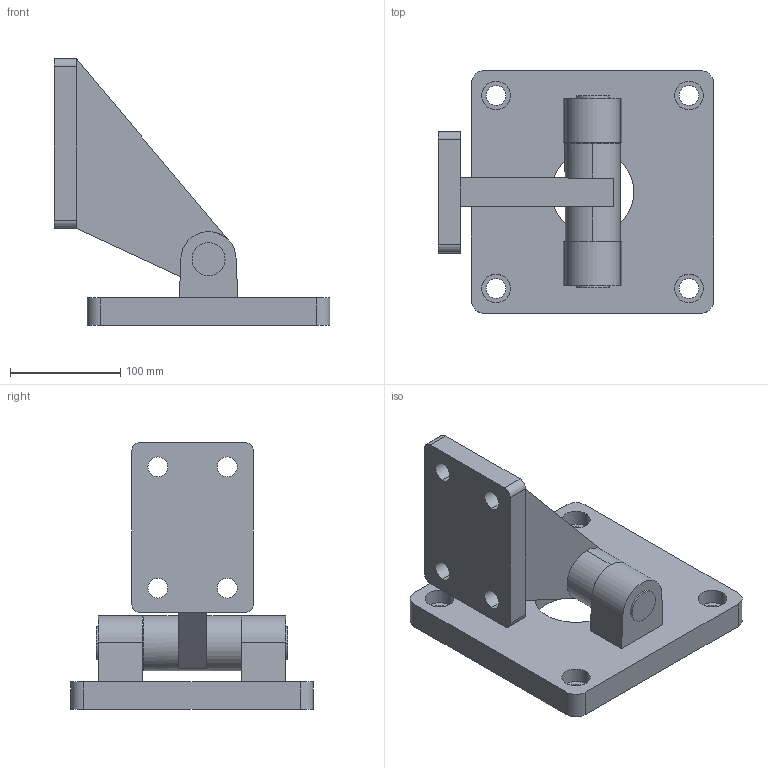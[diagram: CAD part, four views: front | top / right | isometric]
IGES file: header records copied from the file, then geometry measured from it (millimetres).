
Global section: file name: No Iges File Name specified; native system: AutoDesk Inventor R11.0; preprocessor: AutoDesk Inventor Iges Exporter R11.0; author: No Author specified; organization: No Organization specified; date: 20060712.122300; units: millimetre
Bounding box: 250 x 220 x 242 mm (x, y, z)
Volume: 2095078 mm3; surface area: 244927.7 mm2
Topology: 2 solids, 2 shells, 79 faces, 199 edges, 132 vertices
Faces by surface type: bspline 32, plane 29, cylinder 18
